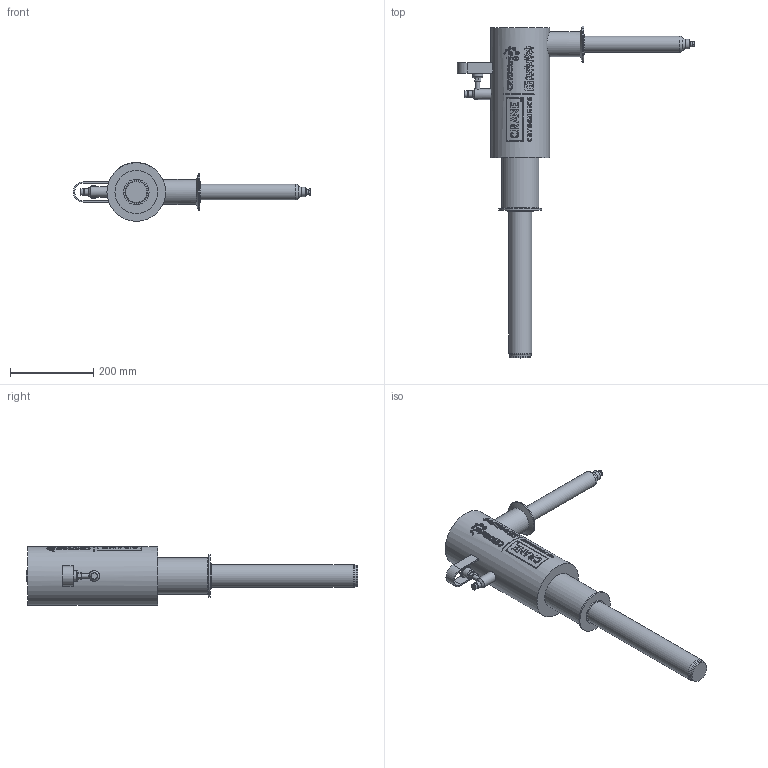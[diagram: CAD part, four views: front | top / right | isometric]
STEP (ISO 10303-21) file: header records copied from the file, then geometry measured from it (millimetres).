
FILE_DESCRIPTION (( 'STEP AP203' ), '1' );
FILE_NAME ('CA00412-TF.step', '2025-12-17T20:02:09', ( '' ), ( '' ), 'SwSTEP 2.0', 'SolidWorks 2023', '' );
FILE_SCHEMA (( 'CONFIG_CONTROL_DESIGN' ));
Length unit declared in the file: inch
Products named in the file (1): CA00412-TF
Bounding box: 571.98 x 799.3 x 141.3 mm (x, y, z)
Volume: 7137106.4 mm3; surface area: 350688.3 mm2
Topology: 1 solids, 1 shells, 669 faces, 1672 edges, 1106 vertices
Faces by surface type: plane 414, cylinder 177, bspline 53, torus 18, cone 7
Full cylindrical faces by diameter (mm): 1.494 x1, 1.636 x1, 1.778 x1, 1.935 x4, 2.039 x1, 2.302 x1, 2.967 x1, 3.071 x1, 3.409 x1, 3.632 x1, 3.807 x1, 4.009 x1, 4.573 x1, 6.177 x1, 7.63 x1, 7.722 x1, 9.232 x1, 10.236 x2, 10.287 x1, 10.749 x1, 12.7 x1, 15.748 x2, 23.012 x1, 24.638 x1, 25.4 x1, 26.873 x1, 30.988 x1, 38.227 x1, 48.59 x1, 50.648 x1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
Entity records: 27862 total; most frequent: CARTESIAN_POINT 13373, ORIENTED_EDGE 3174, DIRECTION 2526, EDGE_CURVE 1587, VERTEX_POINT 1097, AXIS2_PLACEMENT_3D 857, EDGE_LOOP 848, LINE 812
